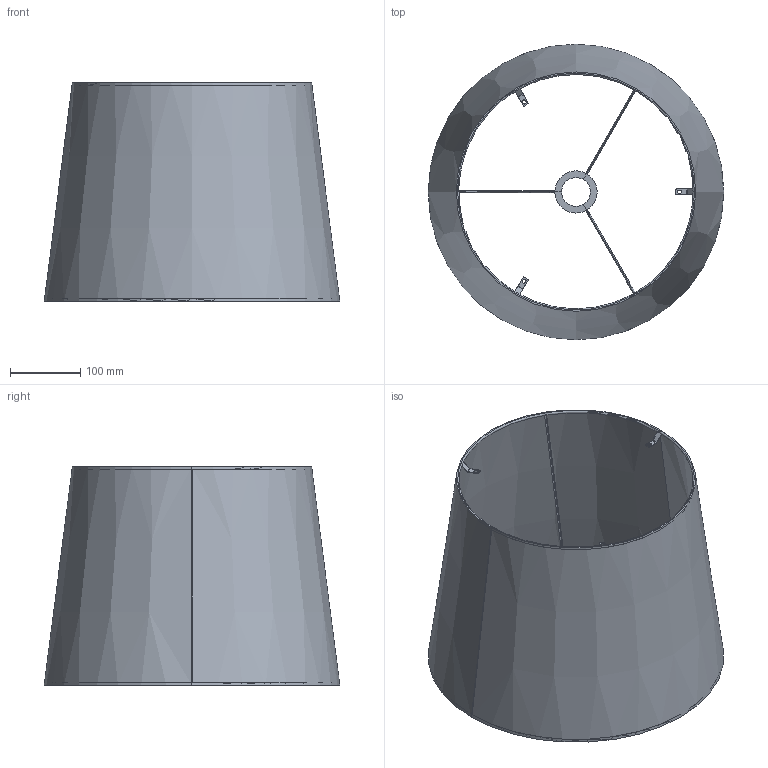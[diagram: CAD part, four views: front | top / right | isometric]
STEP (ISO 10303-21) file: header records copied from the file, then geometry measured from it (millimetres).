
FILE_DESCRIPTION(/* description */ (''),/* implementation_level */ '2;1');
FILE_NAME(/* name */ 'C:\Users\francosartori\Documents\Modelos\01_Indoor\1_SAVOY\03_Publicación\20316_20317_20318\20317.stp',/* time_stamp */ '2020-05-21T12:44:10+02:00',/* author */ ('FrancoSartori'),/* organization */ (''),/* preprocessor_version */ 'ST-DEVELOPER v18.1',/* originating_system */ 'AutoCAD Mechanical',/* authorisation */ '');
FILE_SCHEMA (('AUTOMOTIVE_DESIGN { 1 0 10303 214 3 1 1 }'));
Length unit declared in the file: millimetre
Products named in the file (2): Product; 20316_20317_20318_SAVOY - SAVOY FLOOR SHADE-437237-_3D_
Assembly tree (1 placements, depth 2):
  Product
    20316_20317_20318_SAVOY - SAVOY FLOOR SHADE-437237-_3D_
Bounding box: 420 x 420 x 310 mm (x, y, z)
Volume: 362770.3 mm3; surface area: 1495377.7 mm2
Topology: 2 solids, 3 shells, 78 faces, 226 edges, 144 vertices
Faces by surface type: plane 32, cylinder 28, torus 10, cone 8
Entity records: 3798 total; most frequent: CARTESIAN_POINT 1782, ORIENTED_EDGE 404, DIRECTION 376, EDGE_CURVE 226, VERTEX_POINT 144, AXIS2_PLACEMENT_3D 135, LINE 106, VECTOR 106
